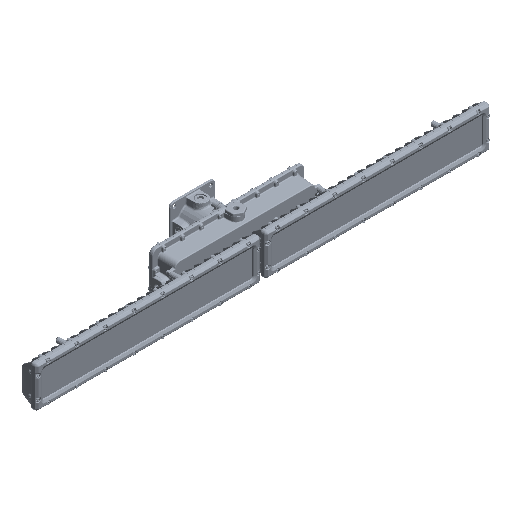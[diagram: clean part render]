
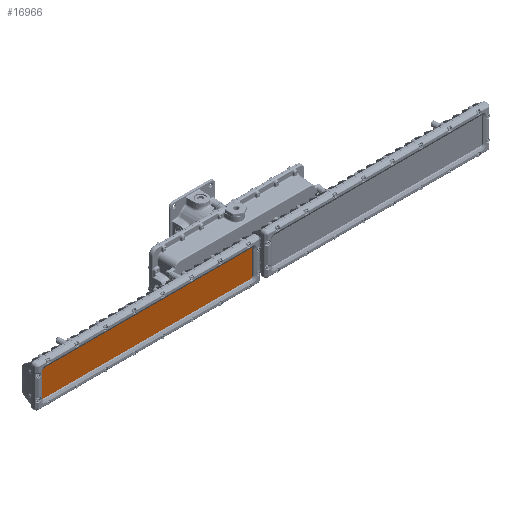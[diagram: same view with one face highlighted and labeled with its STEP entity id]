
A CAD part, isometric view. The second image highlights one B-rep face of the part: STEP entity #16966.
In plain terms, the highlighted planar face has unit normal (0, -1, 0).
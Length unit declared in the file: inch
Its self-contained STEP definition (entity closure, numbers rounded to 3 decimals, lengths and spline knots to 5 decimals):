
#651 = ORIENTED_EDGE ( 'NONE', *, *, #212857, .F. ) ;
#10273 = EDGE_CURVE ( 'NONE', #95411, #95168, #326367, .T. ) ;
#16966 = ADVANCED_FACE ( 'NONE', ( #211000 ), #318589, .F. ) ;
#23033 = ORIENTED_EDGE ( 'NONE', *, *, #10273, .F. ) ;
#28353 = ORIENTED_EDGE ( 'NONE', *, *, #337478, .F. ) ;
#29217 = DIRECTION ( 'NONE',  ( 0., 1., 0. ) ) ;
#40213 = CARTESIAN_POINT ( 'NONE',  ( 11.44685, 0., -1.60433 ) ) ;
#46755 = CARTESIAN_POINT ( 'NONE',  ( -11.25, 0., -1.80118 ) ) ;
#52489 = LINE ( 'NONE', #188351, #202588 ) ;
#61365 = VERTEX_POINT ( 'NONE', #207667 ) ;
#80097 = DIRECTION ( 'NONE',  ( -1., 0., 0. ) ) ;
#83634 = CARTESIAN_POINT ( 'NONE',  ( 11.25, 0., -1.80118 ) ) ;
#85566 = CARTESIAN_POINT ( 'NONE',  ( 0., 0., 0. ) ) ;
#93633 = EDGE_CURVE ( 'NONE', #247061, #148944, #258873, .T. ) ;
#95168 = VERTEX_POINT ( 'NONE', #304057 ) ;
#95411 = VERTEX_POINT ( 'NONE', #149651 ) ;
#96567 = DIRECTION ( 'NONE',  ( -0.707, 0., -0.707 ) ) ;
#108798 = DIRECTION ( 'NONE',  ( 1., 0., 0. ) ) ;
#110532 = CARTESIAN_POINT ( 'NONE',  ( 0., 0., 1.80118 ) ) ;
#112337 = EDGE_CURVE ( 'NONE', #229691, #61365, #202133, .T. ) ;
#112853 = DIRECTION ( 'NONE',  ( 0., 0., 1. ) ) ;
#117233 = VERTEX_POINT ( 'NONE', #168997 ) ;
#123715 = VECTOR ( 'NONE', #96567, 39.37008 ) ;
#125061 = CARTESIAN_POINT ( 'NONE',  ( 11.44685, 0., 1.60433 ) ) ;
#133352 = DIRECTION ( 'NONE',  ( -0.707, 0., 0.707 ) ) ;
#135106 = LINE ( 'NONE', #219719, #208233 ) ;
#145957 = ORIENTED_EDGE ( 'NONE', *, *, #172607, .F. ) ;
#148944 = VERTEX_POINT ( 'NONE', #46755 ) ;
#149651 = CARTESIAN_POINT ( 'NONE',  ( -11.44685, 0., -1.60433 ) ) ;
#152649 = CARTESIAN_POINT ( 'NONE',  ( 11.44685, 0., 0. ) ) ;
#168997 = CARTESIAN_POINT ( 'NONE',  ( 11.25, 0., 1.80118 ) ) ;
#172607 = EDGE_CURVE ( 'NONE', #188799, #117233, #269393, .T. ) ;
#188351 = CARTESIAN_POINT ( 'NONE',  ( 11.25, 0., 1.80118 ) ) ;
#188799 = VERTEX_POINT ( 'NONE', #324013 ) ;
#202133 = LINE ( 'NONE', #152649, #331756 ) ;
#202588 = VECTOR ( 'NONE', #213074, 39.37008 ) ;
#207667 = CARTESIAN_POINT ( 'NONE',  ( 11.44685, 0., -1.60433 ) ) ;
#208233 = VECTOR ( 'NONE', #133352, 39.37008 ) ;
#211000 = FACE_OUTER_BOUND ( 'NONE', #296389, .T. ) ;
#211851 = ORIENTED_EDGE ( 'NONE', *, *, #332824, .F. ) ;
#212857 = EDGE_CURVE ( 'NONE', #148944, #95411, #135106, .T. ) ;
#213074 = DIRECTION ( 'NONE',  ( 0.707, 0., -0.707 ) ) ;
#215224 = AXIS2_PLACEMENT_3D ( 'NONE', #85566, #29217, #323847 ) ;
#219719 = CARTESIAN_POINT ( 'NONE',  ( -11.25, 0., -1.80118 ) ) ;
#228309 = ORIENTED_EDGE ( 'NONE', *, *, #93633, .F. ) ;
#229691 = VERTEX_POINT ( 'NONE', #125061 ) ;
#242645 = ORIENTED_EDGE ( 'NONE', *, *, #112337, .F. ) ;
#247061 = VERTEX_POINT ( 'NONE', #83634 ) ;
#255957 = VECTOR ( 'NONE', #112853, 39.37008 ) ;
#258873 = LINE ( 'NONE', #321831, #302270 ) ;
#269393 = LINE ( 'NONE', #110532, #293160 ) ;
#273412 = CARTESIAN_POINT ( 'NONE',  ( -11.44685, 0., 0. ) ) ;
#275807 = LINE ( 'NONE', #305733, #284993 ) ;
#284993 = VECTOR ( 'NONE', #327036, 39.37008 ) ;
#293160 = VECTOR ( 'NONE', #108798, 39.37008 ) ;
#296389 = EDGE_LOOP ( 'NONE', ( #651, #228309, #28353, #242645, #211851, #145957, #317708, #23033 ) ) ;
#302270 = VECTOR ( 'NONE', #80097, 39.37008 ) ;
#304057 = CARTESIAN_POINT ( 'NONE',  ( -11.44685, 0., 1.60433 ) ) ;
#305733 = CARTESIAN_POINT ( 'NONE',  ( -11.44685, 0., 1.60433 ) ) ;
#309729 = DIRECTION ( 'NONE',  ( 0., 0., -1. ) ) ;
#317708 = ORIENTED_EDGE ( 'NONE', *, *, #343788, .F. ) ;
#318589 = PLANE ( 'NONE',  #215224 ) ;
#321831 = CARTESIAN_POINT ( 'NONE',  ( 0., 0., -1.80118 ) ) ;
#323847 = DIRECTION ( 'NONE',  ( 0., 0., 1. ) ) ;
#324013 = CARTESIAN_POINT ( 'NONE',  ( -11.25, 0., 1.80118 ) ) ;
#326367 = LINE ( 'NONE', #273412, #255957 ) ;
#327036 = DIRECTION ( 'NONE',  ( 0.707, 0., 0.707 ) ) ;
#331756 = VECTOR ( 'NONE', #309729, 39.37008 ) ;
#332824 = EDGE_CURVE ( 'NONE', #117233, #229691, #52489, .T. ) ;
#337478 = EDGE_CURVE ( 'NONE', #61365, #247061, #341804, .T. ) ;
#341804 = LINE ( 'NONE', #40213, #123715 ) ;
#343788 = EDGE_CURVE ( 'NONE', #95168, #188799, #275807, .T. ) ;
